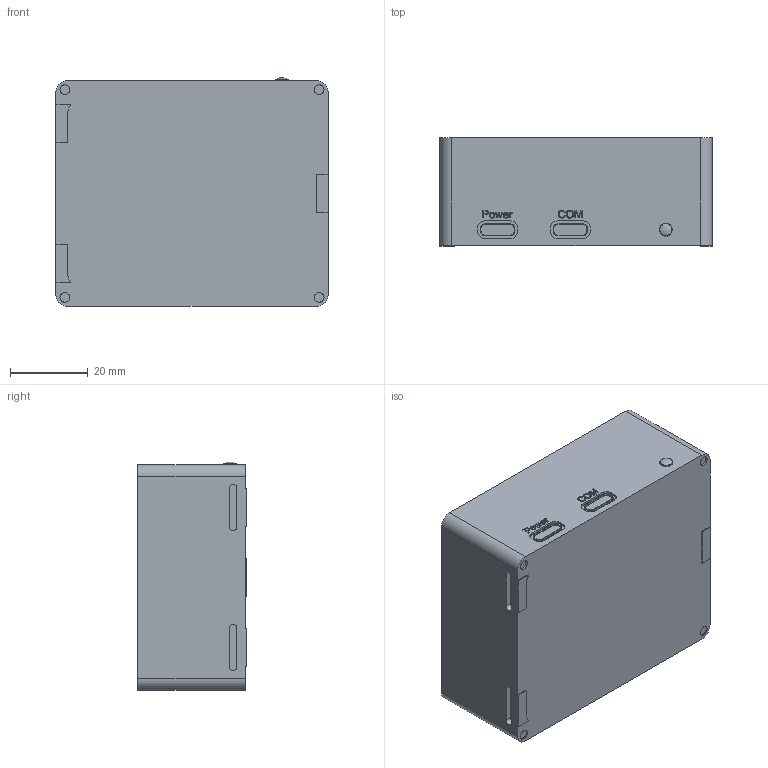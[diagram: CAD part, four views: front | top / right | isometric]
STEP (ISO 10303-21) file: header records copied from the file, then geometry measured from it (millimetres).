
FILE_DESCRIPTION(/* description */ ('HUMMINGBIRD-515'),/* implementation_level */ '2;1');
FILE_NAME(/* name */ 'HUMMINGBIRD-515 MSTP__PN-000402.step',/* time_stamp */ '2025-12-15T12:10:59+01:00',/* author */ (''),/* organization */ (''),/* preprocessor_version */ 'ST-DEVELOPER v20.1',/* originating_system */ 'Autodesk Translation Framework v14.21.0.0',/* authorisation */ '');
FILE_SCHEMA (('AUTOMOTIVE_DESIGN { 1 0 10303 214 3 1 1 }'));
Length unit declared in the file: millimetre
Products named in the file (1): PN-000402 SYS
Bounding box: 70 x 27.9 x 58.76 mm (x, y, z)
Volume: 112000.6 mm3; surface area: 15333.5 mm2
Topology: 1 solids, 1 shells, 299 faces, 800 edges, 533 vertices
Faces by surface type: plane 143, bspline 95, cylinder 59, cone 1, sphere 1
Full cylindrical faces by diameter (mm): 2.5 x4, 3.302 x1, 4.1 x1
Entity records: 10250 total; most frequent: CARTESIAN_POINT 3248, ORIENTED_EDGE 1600, DIRECTION 1139, EDGE_CURVE 800, VERTEX_POINT 533, LINE 491, VECTOR 491, EDGE_LOOP 329
